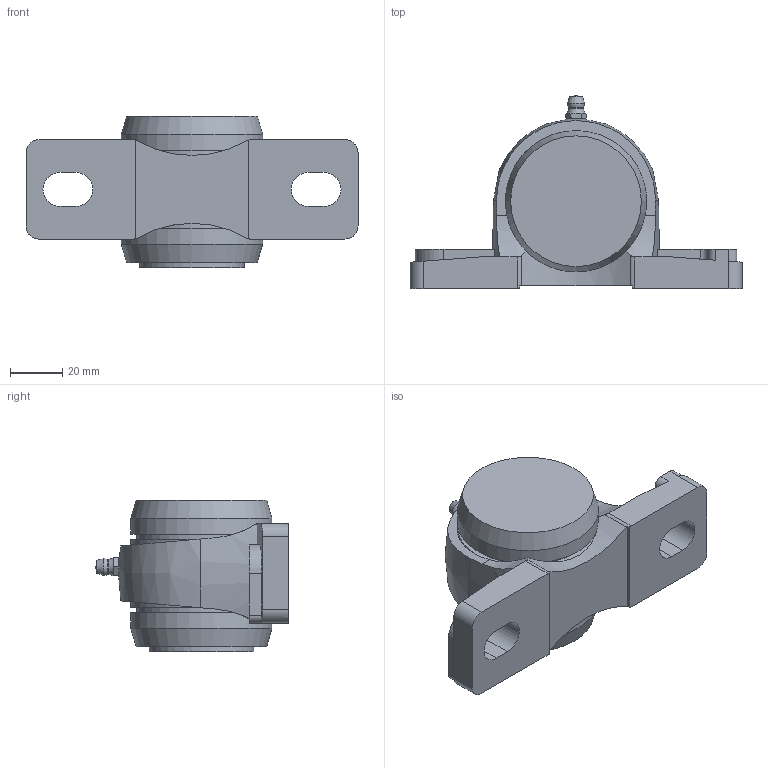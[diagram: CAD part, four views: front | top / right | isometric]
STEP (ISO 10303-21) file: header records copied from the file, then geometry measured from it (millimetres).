
FILE_DESCRIPTION(/* description */ (''),/* implementation_level */ '2;1');
FILE_NAME(/* name */ '\\192.168.10.238\j-cad-d-base\00.3DCADデータ作成フォルダ\08.アルミハウジング\v\MUCAP200VC(E)-J\MUCAP204VCE-J.stp',/* time_stamp */ '2021-02-22T09:21:24+09:00',/* author */ ('UGijyutu_200703'),/* organization */ (''),/* preprocessor_version */ 'ST-DEVELOPER v18',/* originating_system */ 'Autodesk Inventor 2020',/* authorisation */ '');
FILE_SCHEMA (('AUTOMOTIVE_DESIGN { 1 0 10303 214 3 1 1 }'));
Length unit declared in the file: millimetre
Products named in the file (6): MUCAP204VCE-J; AP204C; 1/4-28UNF-2A; 204CP20; 204CPE; MUC204 V
Assembly tree (5 placements, depth 2):
  MUCAP204VCE-J
    AP204C
    1/4-28UNF-2A
    204CP20
    204CPE
    MUC204 V
Bounding box: 127 x 73.8 x 58 mm (x, y, z)
Volume: 119529.5 mm3; surface area: 55358.5 mm2
Topology: 5 solids, 5 shells, 168 faces, 442 edges, 305 vertices
Faces by surface type: plane 84, cylinder 58, cone 19, sphere 4, torus 2, bspline 1
Full cylindrical faces by diameter (mm): 5 x2, 5.359 x1, 6.35 x1, 20 x2, 29 x2, 40 x2, 48 x2, 49.6 x2, 52.4 x4, 54 x6
Entity records: 5997 total; most frequent: CARTESIAN_POINT 1447, DIRECTION 929, ORIENTED_EDGE 882, EDGE_CURVE 441, AXIS2_PLACEMENT_3D 372, VERTEX_POINT 305, EDGE_LOOP 202, LINE 185
